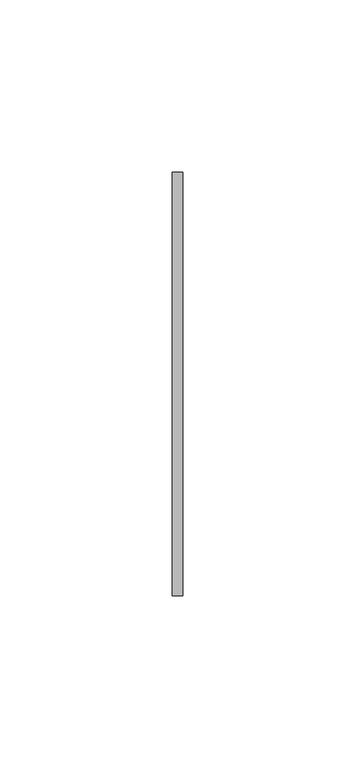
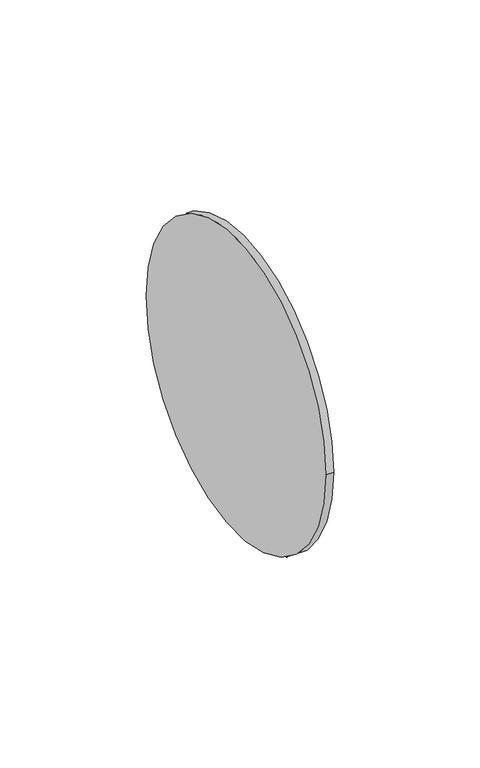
"""IFC4 building model written with IfcOpenShell, lengths in millimetres: pipe fitting geometry, PipeAccessory_GirpiHTA_CPVC_FlatGasketsForFlangeAdaptors : PipeAccessory_GirpiHTA_CPVC_FlatGasketsForFlangeAdaptors."""

from ifc_helpers import new_model, si_unit, point, frame, origin, origin_2d, place, context, project, spatial, circle_curve, trimmed, segment, composite_curve, outline, extrude, source, transform, mapped, element, save


def pipe_fitting_2be26bb4(model_context):
    return source(origin(), model_context, "Body", "SweptSolid", [
        extrude(outline(composite_curve([segment(trimmed(circle_curve(origin_2d(), 61.5), [point((-61.5, 0.0))], [point((61.5, 0.0))], False, "CARTESIAN"), True, "CONTINUOUS"), segment(trimmed(circle_curve(origin_2d(), 61.5), [point((61.5, 0.0))], [point((-61.5, 0.0))], False, "CARTESIAN"), True, "CONTINUOUS")], self_intersect=False)), frame((-1.5, 0.0, 0.0), z_axis=(1.0, 0.0, 0.0), x_axis=(0.0, 1.0, 0.0)), (0.0, 0.0, 1.0), 3.0),
    ])


if __name__ == "__main__":
    model = new_model("IFC4")
    model_context = context("Model", 3, world=origin())
    ifc_project = project(units=[si_unit("LENGTHUNIT", "METRE", prefix="MILLI")], contexts=[model_context])
    site = spatial("IfcSite", under=ifc_project)
    building = spatial("IfcBuilding", under=site)
    placement = place(None, origin())
    pipe_fitting_shape = pipe_fitting_2be26bb4(model_context)
    element("IfcPipeFitting", 1, ObjectType="PipeAccessory_GirpiHTA_CPVC_FlatGasketsForFlangeAdaptors : PipeAccessory_GirpiHTA_CPVC_FlatGasketsForFlangeAdaptors", at=placement, inside=building, context=model_context, shape_type="MappedRepresentation", body=[
        mapped(pipe_fitting_shape, transform((0.0, 0.0, 0.0), x_axis=(1.0, 0.0, 0.0), y_axis=(0.0, 1.0, 0.0), z_axis=(0.0, 0.0, 1.0))),
    ])
    save(model, "model.ifc")
